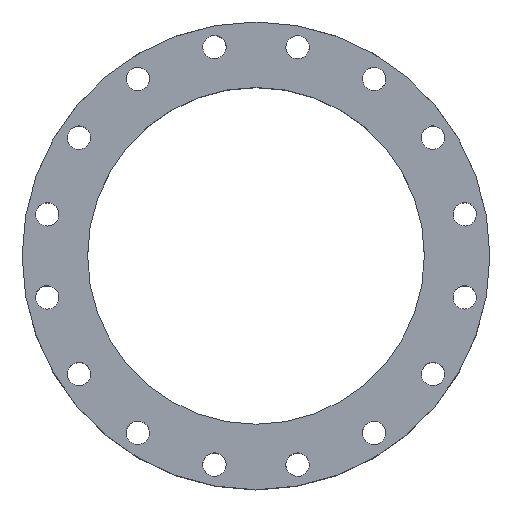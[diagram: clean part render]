
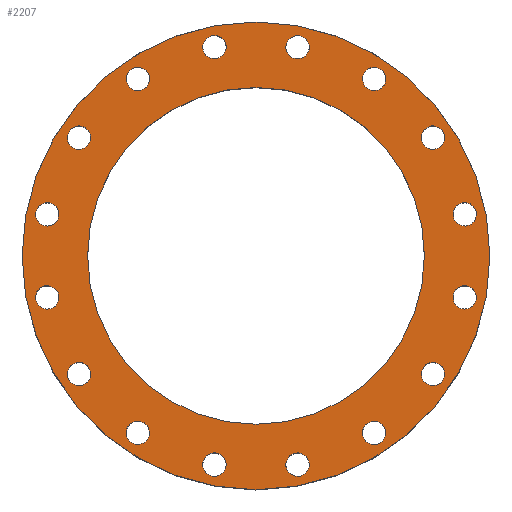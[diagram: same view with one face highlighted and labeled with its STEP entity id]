
A CAD part, top view. The second image highlights one B-rep face of the part: STEP entity #2207.
In plain terms, the highlighted planar face has unit normal (0, 0, 1).
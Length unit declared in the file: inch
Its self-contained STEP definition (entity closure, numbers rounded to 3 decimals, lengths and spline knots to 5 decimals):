
#56=FACE_BOUND('',#385,.T.);
#57=FACE_BOUND('',#386,.T.);
#58=FACE_BOUND('',#387,.T.);
#59=FACE_BOUND('',#388,.T.);
#60=FACE_BOUND('',#389,.T.);
#61=FACE_BOUND('',#390,.T.);
#62=FACE_BOUND('',#391,.T.);
#63=FACE_BOUND('',#392,.T.);
#64=FACE_BOUND('',#393,.T.);
#65=FACE_BOUND('',#394,.T.);
#66=FACE_BOUND('',#395,.T.);
#67=FACE_BOUND('',#396,.T.);
#68=FACE_BOUND('',#397,.T.);
#69=FACE_BOUND('',#398,.T.);
#70=FACE_BOUND('',#399,.T.);
#71=FACE_BOUND('',#400,.T.);
#72=FACE_BOUND('',#401,.T.);
#160=PLANE('',#2441);
#236=FACE_OUTER_BOUND('',#384,.T.);
#384=EDGE_LOOP('',(#1636));
#385=EDGE_LOOP('',(#1637));
#386=EDGE_LOOP('',(#1638));
#387=EDGE_LOOP('',(#1639));
#388=EDGE_LOOP('',(#1640));
#389=EDGE_LOOP('',(#1641));
#390=EDGE_LOOP('',(#1642));
#391=EDGE_LOOP('',(#1643));
#392=EDGE_LOOP('',(#1644));
#393=EDGE_LOOP('',(#1645));
#394=EDGE_LOOP('',(#1646));
#395=EDGE_LOOP('',(#1647));
#396=EDGE_LOOP('',(#1648));
#397=EDGE_LOOP('',(#1649));
#398=EDGE_LOOP('',(#1650));
#399=EDGE_LOOP('',(#1651));
#400=EDGE_LOOP('',(#1652));
#401=EDGE_LOOP('',(#1653));
#812=CIRCLE('',#2390,0.625);
#814=CIRCLE('',#2393,0.625);
#816=CIRCLE('',#2396,0.625);
#818=CIRCLE('',#2399,0.625);
#820=CIRCLE('',#2402,0.625);
#822=CIRCLE('',#2405,0.625);
#824=CIRCLE('',#2408,0.625);
#826=CIRCLE('',#2411,0.625);
#828=CIRCLE('',#2414,0.625);
#830=CIRCLE('',#2417,0.625);
#832=CIRCLE('',#2420,0.625);
#834=CIRCLE('',#2423,0.625);
#836=CIRCLE('',#2426,0.625);
#838=CIRCLE('',#2429,0.625);
#840=CIRCLE('',#2432,0.625);
#842=CIRCLE('',#2435,0.625);
#843=CIRCLE('',#2437,9.);
#845=CIRCLE('',#2440,12.5);
#984=VERTEX_POINT('',#3441);
#986=VERTEX_POINT('',#3447);
#988=VERTEX_POINT('',#3453);
#990=VERTEX_POINT('',#3459);
#992=VERTEX_POINT('',#3465);
#994=VERTEX_POINT('',#3471);
#996=VERTEX_POINT('',#3477);
#998=VERTEX_POINT('',#3483);
#1000=VERTEX_POINT('',#3489);
#1002=VERTEX_POINT('',#3495);
#1004=VERTEX_POINT('',#3501);
#1006=VERTEX_POINT('',#3507);
#1008=VERTEX_POINT('',#3513);
#1010=VERTEX_POINT('',#3519);
#1012=VERTEX_POINT('',#3525);
#1014=VERTEX_POINT('',#3531);
#1015=VERTEX_POINT('',#3535);
#1017=VERTEX_POINT('',#3541);
#1201=EDGE_CURVE('',#984,#984,#812,.T.);
#1204=EDGE_CURVE('',#986,#986,#814,.T.);
#1207=EDGE_CURVE('',#988,#988,#816,.T.);
#1210=EDGE_CURVE('',#990,#990,#818,.T.);
#1213=EDGE_CURVE('',#992,#992,#820,.T.);
#1216=EDGE_CURVE('',#994,#994,#822,.T.);
#1219=EDGE_CURVE('',#996,#996,#824,.T.);
#1222=EDGE_CURVE('',#998,#998,#826,.T.);
#1225=EDGE_CURVE('',#1000,#1000,#828,.T.);
#1228=EDGE_CURVE('',#1002,#1002,#830,.T.);
#1231=EDGE_CURVE('',#1004,#1004,#832,.T.);
#1234=EDGE_CURVE('',#1006,#1006,#834,.T.);
#1237=EDGE_CURVE('',#1008,#1008,#836,.T.);
#1240=EDGE_CURVE('',#1010,#1010,#838,.T.);
#1243=EDGE_CURVE('',#1012,#1012,#840,.T.);
#1246=EDGE_CURVE('',#1014,#1014,#842,.T.);
#1247=EDGE_CURVE('',#1015,#1015,#843,.T.);
#1251=EDGE_CURVE('',#1017,#1017,#845,.T.);
#1636=ORIENTED_EDGE('',*,*,#1251,.F.);
#1637=ORIENTED_EDGE('',*,*,#1201,.T.);
#1638=ORIENTED_EDGE('',*,*,#1204,.T.);
#1639=ORIENTED_EDGE('',*,*,#1207,.T.);
#1640=ORIENTED_EDGE('',*,*,#1210,.T.);
#1641=ORIENTED_EDGE('',*,*,#1213,.T.);
#1642=ORIENTED_EDGE('',*,*,#1216,.T.);
#1643=ORIENTED_EDGE('',*,*,#1219,.T.);
#1644=ORIENTED_EDGE('',*,*,#1222,.T.);
#1645=ORIENTED_EDGE('',*,*,#1225,.T.);
#1646=ORIENTED_EDGE('',*,*,#1228,.T.);
#1647=ORIENTED_EDGE('',*,*,#1231,.T.);
#1648=ORIENTED_EDGE('',*,*,#1234,.T.);
#1649=ORIENTED_EDGE('',*,*,#1237,.T.);
#1650=ORIENTED_EDGE('',*,*,#1240,.T.);
#1651=ORIENTED_EDGE('',*,*,#1243,.T.);
#1652=ORIENTED_EDGE('',*,*,#1246,.T.);
#1653=ORIENTED_EDGE('',*,*,#1247,.T.);
#2207=ADVANCED_FACE('',(#236,#56,#57,#58,#59,#60,#61,#62,#63,#64,#65,#66,
#67,#68,#69,#70,#71,#72),#160,.F.);
#2390=AXIS2_PLACEMENT_3D('',#3443,#2802,#2803);
#2393=AXIS2_PLACEMENT_3D('',#3449,#2809,#2810);
#2396=AXIS2_PLACEMENT_3D('',#3455,#2816,#2817);
#2399=AXIS2_PLACEMENT_3D('',#3461,#2823,#2824);
#2402=AXIS2_PLACEMENT_3D('',#3467,#2830,#2831);
#2405=AXIS2_PLACEMENT_3D('',#3473,#2837,#2838);
#2408=AXIS2_PLACEMENT_3D('',#3479,#2844,#2845);
#2411=AXIS2_PLACEMENT_3D('',#3485,#2851,#2852);
#2414=AXIS2_PLACEMENT_3D('',#3491,#2858,#2859);
#2417=AXIS2_PLACEMENT_3D('',#3497,#2865,#2866);
#2420=AXIS2_PLACEMENT_3D('',#3503,#2872,#2873);
#2423=AXIS2_PLACEMENT_3D('',#3509,#2879,#2880);
#2426=AXIS2_PLACEMENT_3D('',#3515,#2886,#2887);
#2429=AXIS2_PLACEMENT_3D('',#3521,#2893,#2894);
#2432=AXIS2_PLACEMENT_3D('',#3527,#2900,#2901);
#2435=AXIS2_PLACEMENT_3D('',#3533,#2907,#2908);
#2437=AXIS2_PLACEMENT_3D('',#3536,#2911,#2912);
#2440=AXIS2_PLACEMENT_3D('',#3543,#2919,#2920);
#2441=AXIS2_PLACEMENT_3D('',#3544,#2921,#2922);
#2802=DIRECTION('center_axis',(0.,0.,
-1.));
#2803=DIRECTION('ref_axis',(0.707,-0.707,0.));
#2809=DIRECTION('center_axis',(0.,0.,
-1.));
#2810=DIRECTION('ref_axis',(0.383,-0.924,0.));
#2816=DIRECTION('center_axis',(0.,0.,
-1.));
#2817=DIRECTION('ref_axis',(0.,-1.,0.));
#2823=DIRECTION('center_axis',(0.,0.,
-1.));
#2824=DIRECTION('ref_axis',(-0.383,-0.924,0.));
#2830=DIRECTION('center_axis',(0.,0.,
-1.));
#2831=DIRECTION('ref_axis',(-0.707,-0.707,0.));
#2837=DIRECTION('center_axis',(0.,0.,
-1.));
#2838=DIRECTION('ref_axis',(-0.924,-0.383,0.));
#2844=DIRECTION('center_axis',(0.,0.,
-1.));
#2845=DIRECTION('ref_axis',(-1.,0.,0.));
#2851=DIRECTION('center_axis',(0.,0.,
-1.));
#2852=DIRECTION('ref_axis',(-0.924,0.383,0.));
#2858=DIRECTION('center_axis',(0.,0.,
-1.));
#2859=DIRECTION('ref_axis',(-0.707,0.707,0.));
#2865=DIRECTION('center_axis',(0.,0.,
-1.));
#2866=DIRECTION('ref_axis',(-0.383,0.924,0.));
#2872=DIRECTION('center_axis',(0.,0.,
-1.));
#2873=DIRECTION('ref_axis',(0.,1.,0.));
#2879=DIRECTION('center_axis',(0.,0.,
-1.));
#2880=DIRECTION('ref_axis',(0.383,0.924,0.));
#2886=DIRECTION('center_axis',(0.,0.,
-1.));
#2887=DIRECTION('ref_axis',(0.707,0.707,0.));
#2893=DIRECTION('center_axis',(0.,0.,
-1.));
#2894=DIRECTION('ref_axis',(0.924,0.383,0.));
#2900=DIRECTION('center_axis',(0.,0.,
-1.));
#2901=DIRECTION('ref_axis',(0.924,-0.383,0.));
#2907=DIRECTION('center_axis',(0.,0.,
-1.));
#2908=DIRECTION('ref_axis',(1.,0.,0.));
#2911=DIRECTION('center_axis',(0.,0.,
-1.));
#2912=DIRECTION('ref_axis',(-1.,0.,0.));
#2919=DIRECTION('center_axis',(0.,0.,
-1.));
#2920=DIRECTION('ref_axis',(1.,0.,0.));
#2921=DIRECTION('center_axis',(0.,0.,
-1.));
#2922=DIRECTION('ref_axis',(1.,0.,0.));
#3441=CARTESIAN_POINT('',(-9.89991,-5.87767,4.));
#3443=CARTESIAN_POINT('Origin',(-9.45797,-6.31961,4.));
#3447=CARTESIAN_POINT('',(-11.39561,-1.64173,4.));
#3449=CARTESIAN_POINT('Origin',(-11.15643,-2.21915,4.));
#3453=CARTESIAN_POINT('',(-11.15643,2.84415,4.));
#3455=CARTESIAN_POINT('Origin',(-11.15643,2.21915,4.));
#3459=CARTESIAN_POINT('',(-9.21879,6.89704,4.));
#3461=CARTESIAN_POINT('Origin',(-9.45797,6.31961,4.));
#3465=CARTESIAN_POINT('',(-5.87767,9.89991,4.));
#3467=CARTESIAN_POINT('Origin',(-6.31961,9.45797,4.));
#3471=CARTESIAN_POINT('',(-1.64173,11.39561,4.));
#3473=CARTESIAN_POINT('Origin',(-2.21915,11.15643,4.));
#3477=CARTESIAN_POINT('',(2.84415,11.15643,4.));
#3479=CARTESIAN_POINT('Origin',(2.21915,11.15643,4.));
#3483=CARTESIAN_POINT('',(6.89704,9.21879,4.));
#3485=CARTESIAN_POINT('Origin',(6.31961,9.45797,4.));
#3489=CARTESIAN_POINT('',(9.89991,5.87767,4.));
#3491=CARTESIAN_POINT('Origin',(9.45797,6.31961,4.));
#3495=CARTESIAN_POINT('',(11.39561,1.64173,4.));
#3497=CARTESIAN_POINT('Origin',(11.15643,2.21915,4.));
#3501=CARTESIAN_POINT('',(11.15643,-2.84415,4.));
#3503=CARTESIAN_POINT('Origin',(11.15643,-2.21915,4.));
#3507=CARTESIAN_POINT('',(9.21879,-6.89704,4.));
#3509=CARTESIAN_POINT('Origin',(9.45797,-6.31961,4.));
#3513=CARTESIAN_POINT('',(5.87767,-9.89991,4.));
#3515=CARTESIAN_POINT('Origin',(6.31961,-9.45797,4.));
#3519=CARTESIAN_POINT('',(1.64173,-11.39561,4.));
#3521=CARTESIAN_POINT('Origin',(2.21915,-11.15643,4.));
#3525=CARTESIAN_POINT('',(-6.89704,-9.21879,4.));
#3527=CARTESIAN_POINT('Origin',(-6.31961,-9.45797,4.));
#3531=CARTESIAN_POINT('',(-2.84415,-11.15643,4.));
#3533=CARTESIAN_POINT('Origin',(-2.21915,-11.15643,4.));
#3535=CARTESIAN_POINT('',(9.,0.,4.));
#3536=CARTESIAN_POINT('Origin',(0.,0.,
4.));
#3541=CARTESIAN_POINT('',(-12.5,0.,4.));
#3543=CARTESIAN_POINT('Origin',(0.,0.,
4.));
#3544=CARTESIAN_POINT('Origin',(0.,0.,
4.));
